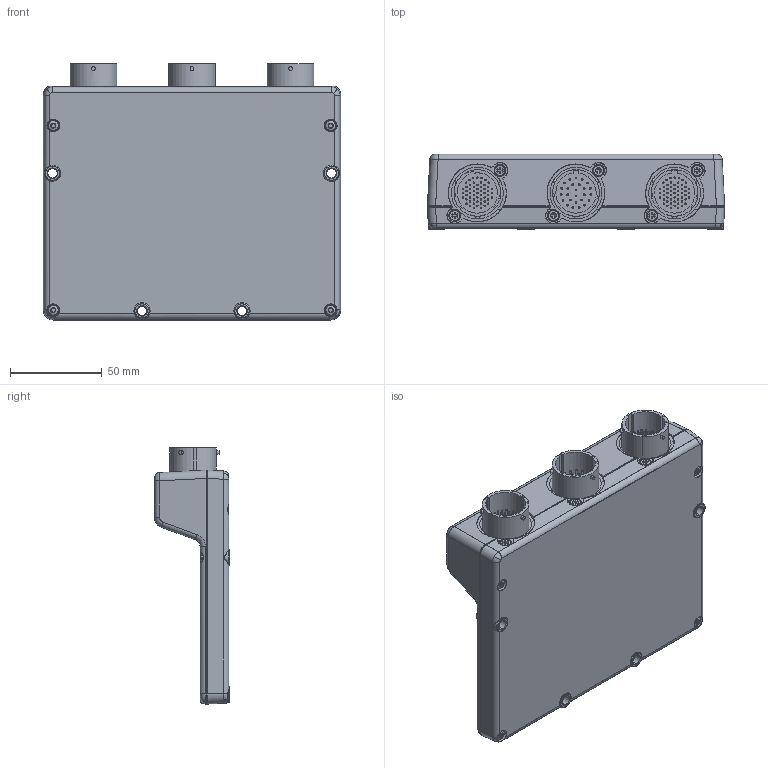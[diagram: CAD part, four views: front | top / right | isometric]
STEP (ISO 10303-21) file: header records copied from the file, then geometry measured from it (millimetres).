
FILE_DESCRIPTION(/* description */ ('Alibre Inc.'),/* implementation_level */ '2;1');
FILE_NAME(/* name */ 'export0',/* time_stamp */ '2016-10-03T14:22:48+11:00',/* author */ (''),/* organization */ (''),/* preprocessor_version */ 'ST-DEVELOPER v14',/* originating_system */ 'Alibre',/* authorisation */ '');
FILE_SCHEMA (('AUTOMOTIVE_DESIGN'));
Length unit declared in the file: centimetre
Products named in the file (8): BENE INOX | 210214-3X5
Bounding box: 162 x 41 x 139.6 mm (x, y, z)
Volume: 16889.6 mm3; surface area: 129438.8 mm2
Topology: 15 solids, 15 shells, 1344 faces, 4288 edges, 3129 vertices
Faces by surface type: plane 582, cylinder 403, cone 236, bspline 76, torus 44, extrusion 3
Full cylindrical faces by diameter (mm): 0.75 x110, 1 x26, 2.08 x9, 3.25 x6, 5.6 x4, 25.4 x3
Entity records: 55118 total; most frequent: CARTESIAN_POINT 22605, ORIENTED_EDGE 6762, DIRECTION 6273, EDGE_CURVE 3381, AXIS2_PLACEMENT_3D 2860, VERTEX_POINT 2665, CIRCLE 1715, EDGE_LOOP 1462
